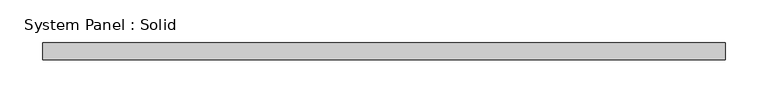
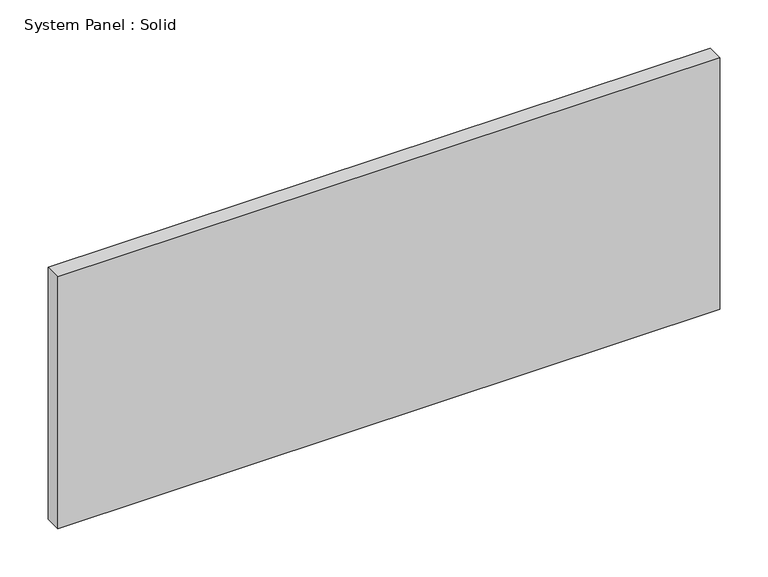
"""IFC4 building model written with IfcOpenShell, lengths in millimetres: plate geometry, System Panel : Solid."""

from ifc_helpers import new_model, si_unit, origin, origin_with_axes, place, context, project, spatial, polyline, outline, extrude, source, transform, mapped, element, save


def system_panel_solid_5c81e5c3(model_context):
    return source(origin(), model_context, "Body", "SweptSolid", [
        extrude(outline(polyline([(398.3333333, -10.0), (-398.3333333, -10.0), (-398.3333333, 10.0), (398.3333333, 10.0), (398.3333333, -10.0)])), origin_with_axes(), (0.0, 0.0, 1.0), 320.0),
    ])


if __name__ == "__main__":
    model = new_model("IFC4")
    model_context = context("Model", 3, world=origin())
    ifc_project = project(units=[si_unit("LENGTHUNIT", "METRE", prefix="MILLI")], contexts=[model_context])
    site = spatial("IfcSite", under=ifc_project)
    building = spatial("IfcBuilding", under=site)
    placement = place(None, origin())
    system_panel_solid_shape = system_panel_solid_5c81e5c3(model_context)
    element("IfcPlate", 1, ObjectType="System Panel : Solid", at=placement, inside=building, context=model_context, shape_type="MappedRepresentation", body=[
        mapped(system_panel_solid_shape, transform((0.0, 0.0, 0.0), x_axis=(1.0, 0.0, 0.0), y_axis=(0.0, 1.0, 0.0), z_axis=(0.0, 0.0, 1.0))),
    ])
    save(model, "model.ifc")
